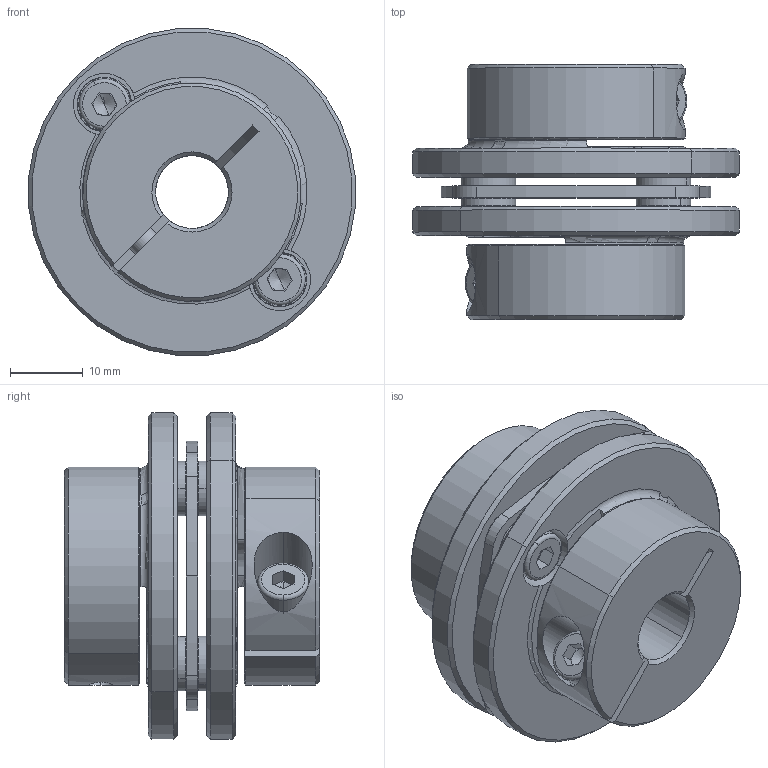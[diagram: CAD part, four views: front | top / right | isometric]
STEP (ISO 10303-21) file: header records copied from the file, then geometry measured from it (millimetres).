
FILE_DESCRIPTION (( 'STEP AP203' ), '1' );
FILE_NAME ('LE1-B-D45L35-10-10.STEP', '2021-11-01T03:06:01', ( '' ), ( '' ), 'SwSTEP 2.0', 'SolidWorks 2018', '' );
FILE_SCHEMA (( 'CONFIG_CONTROL_DESIGN' ));
Length unit declared in the file: millimetre
Products named in the file (1): LE1-B-D45L35-10-10
Bounding box: 44.83 x 35 x 44.83 mm (x, y, z)
Volume: 26069.7 mm3; surface area: 15888.1 mm2
Topology: 1 solids, 13 shells, 405 faces, 991 edges, 614 vertices
Faces by surface type: plane 136, cylinder 135, cone 114, torus 18, bspline 2
Entity records: 12432 total; most frequent: CARTESIAN_POINT 2479, DIRECTION 2247, ORIENTED_EDGE 1958, EDGE_CURVE 979, AXIS2_PLACEMENT_3D 914, VERTEX_POINT 614, CIRCLE 510, EDGE_LOOP 469
